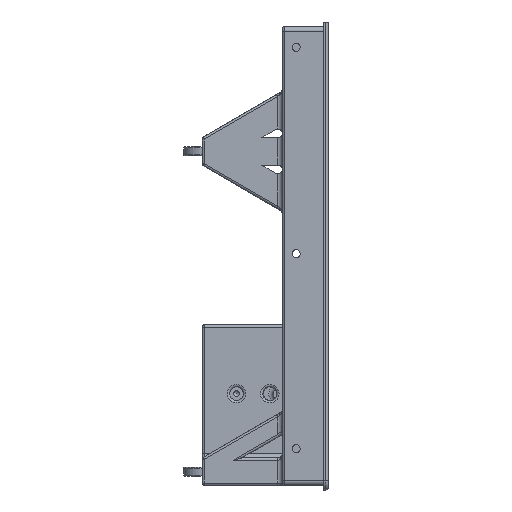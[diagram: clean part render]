
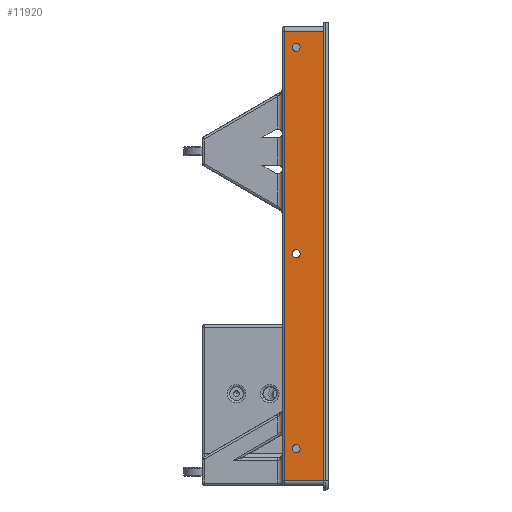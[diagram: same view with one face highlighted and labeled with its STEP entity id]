
A CAD part, left-side view. The second image highlights one B-rep face of the part: STEP entity #11920.
In plain terms, the highlighted planar face has unit normal (-1, 0, 0).
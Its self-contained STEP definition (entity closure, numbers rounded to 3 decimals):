
#471=FACE_BOUND('',#4001,.T.);
#472=FACE_BOUND('',#4002,.T.);
#473=FACE_BOUND('',#4003,.T.);
#619=PLANE('',#13378);
#1207=LINE('',#21142,#2054);
#1425=LINE('',#22101,#2272);
#1426=LINE('',#22105,#2273);
#1427=LINE('',#22107,#2274);
#2054=VECTOR('',#16000,10.);
#2272=VECTOR('',#16900,10.);
#2273=VECTOR('',#16907,10.);
#2274=VECTOR('',#16910,10.);
#3226=FACE_OUTER_BOUND('',#4000,.T.);
#4000=EDGE_LOOP('',(#10743,#10744,#10745,#10746));
#4001=EDGE_LOOP('',(#10747,#10748));
#4002=EDGE_LOOP('',(#10749,#10750));
#4003=EDGE_LOOP('',(#10751,#10752));
#4817=CIRCLE('',#13379,1.75);
#4818=CIRCLE('',#13380,1.75);
#4819=CIRCLE('',#13381,1.75);
#4820=CIRCLE('',#13382,1.75);
#4821=CIRCLE('',#13383,1.75);
#4822=CIRCLE('',#13384,1.75);
#5710=VERTEX_POINT('',#21134);
#5712=VERTEX_POINT('',#21140);
#5903=VERTEX_POINT('',#22099);
#5904=VERTEX_POINT('',#22100);
#5905=VERTEX_POINT('',#22108);
#5906=VERTEX_POINT('',#22109);
#5907=VERTEX_POINT('',#22112);
#5908=VERTEX_POINT('',#22113);
#5909=VERTEX_POINT('',#22116);
#5910=VERTEX_POINT('',#22117);
#7201=EDGE_CURVE('',#5712,#5710,#1207,.T.);
#7594=EDGE_CURVE('',#5903,#5904,#1425,.T.);
#7597=EDGE_CURVE('',#5710,#5904,#1426,.T.);
#7598=EDGE_CURVE('',#5903,#5712,#1427,.T.);
#7599=EDGE_CURVE('',#5905,#5906,#4817,.T.);
#7600=EDGE_CURVE('',#5906,#5905,#4818,.T.);
#7601=EDGE_CURVE('',#5907,#5908,#4819,.T.);
#7602=EDGE_CURVE('',#5908,#5907,#4820,.T.);
#7603=EDGE_CURVE('',#5909,#5910,#4821,.T.);
#7604=EDGE_CURVE('',#5910,#5909,#4822,.T.);
#10743=ORIENTED_EDGE('',*,*,#7201,.F.);
#10744=ORIENTED_EDGE('',*,*,#7598,.F.);
#10745=ORIENTED_EDGE('',*,*,#7594,.T.);
#10746=ORIENTED_EDGE('',*,*,#7597,.F.);
#10747=ORIENTED_EDGE('',*,*,#7599,.T.);
#10748=ORIENTED_EDGE('',*,*,#7600,.T.);
#10749=ORIENTED_EDGE('',*,*,#7601,.T.);
#10750=ORIENTED_EDGE('',*,*,#7602,.T.);
#10751=ORIENTED_EDGE('',*,*,#7603,.T.);
#10752=ORIENTED_EDGE('',*,*,#7604,.T.);
#11920=ADVANCED_FACE('',(#3226,#471,#472,#473),#619,.T.);
#13378=AXIS2_PLACEMENT_3D('',#22106,#16908,#16909);
#13379=AXIS2_PLACEMENT_3D('',#22110,#16911,#16912);
#13380=AXIS2_PLACEMENT_3D('',#22111,#16913,#16914);
#13381=AXIS2_PLACEMENT_3D('',#22114,#16915,#16916);
#13382=AXIS2_PLACEMENT_3D('',#22115,#16917,#16918);
#13383=AXIS2_PLACEMENT_3D('',#22118,#16919,#16920);
#13384=AXIS2_PLACEMENT_3D('',#22119,#16921,#16922);
#16000=DIRECTION('',(0.,0.,1.));
#16900=DIRECTION('',(0.,0.,1.));
#16907=DIRECTION('',(0.,-1.,0.));
#16908=DIRECTION('center_axis',(-1.,0.,0.));
#16909=DIRECTION('ref_axis',(0.,0.,1.));
#16910=DIRECTION('',(0.,1.,0.));
#16911=DIRECTION('center_axis',(1.,0.,0.));
#16912=DIRECTION('ref_axis',(0.,0.,-1.));
#16913=DIRECTION('center_axis',(1.,0.,0.));
#16914=DIRECTION('ref_axis',(0.,0.,-1.));
#16915=DIRECTION('center_axis',(1.,0.,0.));
#16916=DIRECTION('ref_axis',(0.,0.,-1.));
#16917=DIRECTION('center_axis',(1.,0.,0.));
#16918=DIRECTION('ref_axis',(0.,0.,-1.));
#16919=DIRECTION('center_axis',(1.,0.,0.));
#16920=DIRECTION('ref_axis',(0.,0.,-1.));
#16921=DIRECTION('center_axis',(1.,0.,0.));
#16922=DIRECTION('ref_axis',(0.,0.,-1.));
#21134=CARTESIAN_POINT('',(0.,19.,198.));
#21140=CARTESIAN_POINT('',(0.,19.,2.));
#21142=CARTESIAN_POINT('',(0.,19.,50.));
#22099=CARTESIAN_POINT('',(0.,2.,2.));
#22100=CARTESIAN_POINT('',(0.,2.,198.));
#22101=CARTESIAN_POINT('',(0.,2.,50.));
#22105=CARTESIAN_POINT('',(0.,0.,198.));
#22106=CARTESIAN_POINT('Origin',(0.,0.,0.));
#22107=CARTESIAN_POINT('',(0.,0.,2.));
#22108=CARTESIAN_POINT('',(0.,14.,14.25));
#22109=CARTESIAN_POINT('',(0.,14.,17.75));
#22110=CARTESIAN_POINT('Origin',(0.,14.,16.));
#22111=CARTESIAN_POINT('Origin',(0.,14.,16.));
#22112=CARTESIAN_POINT('',(0.,14.,189.25));
#22113=CARTESIAN_POINT('',(0.,14.,192.75));
#22114=CARTESIAN_POINT('Origin',(0.,14.,191.));
#22115=CARTESIAN_POINT('Origin',(0.,14.,191.));
#22116=CARTESIAN_POINT('',(0.,14.,99.25));
#22117=CARTESIAN_POINT('',(0.,14.,102.75));
#22118=CARTESIAN_POINT('Origin',(0.,14.,101.));
#22119=CARTESIAN_POINT('Origin',(0.,14.,101.));
